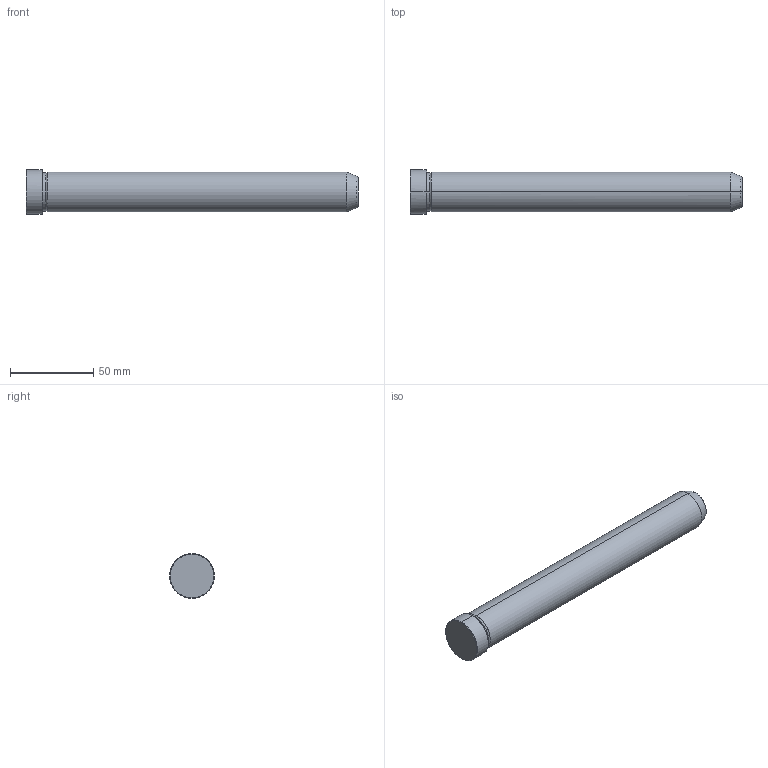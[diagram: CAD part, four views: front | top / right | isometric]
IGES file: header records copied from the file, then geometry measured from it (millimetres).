
Start section: START RECORD GO HERE.
Global section: file name: 549-24X200.igs; native system: DASSAULT SYSTEMES CATIA V5 R20 - www.3ds.com; preprocessor: CATIA Version 5 Release 20 ; author: Utente; organization: NB04-ASUS; date: 20211217.151349; units: millimetre
Bounding box: 200 x 27 x 27 mm (x, y, z)
Surface area: 16104.8 mm2 (no closed solid volume)
Topology: 0 solids, 0 shells, 19 faces, 112 edges, 112 vertices
Faces by surface type: revolution 16, plane 3
